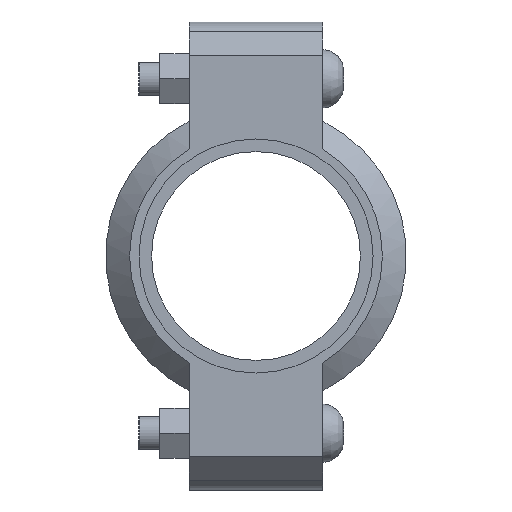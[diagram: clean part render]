
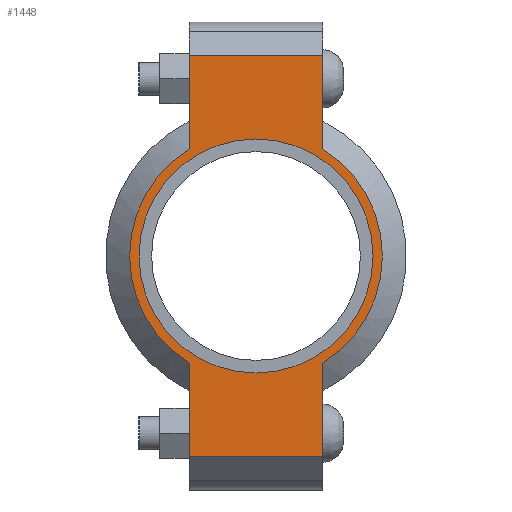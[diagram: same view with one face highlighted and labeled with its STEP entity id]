
A CAD part, left-side view. The second image highlights one B-rep face of the part: STEP entity #1448.
In plain terms, the highlighted planar face has unit normal (-1, 0, 0) as drawn and (0, 0, 1) by its records, which use the part's own axes.
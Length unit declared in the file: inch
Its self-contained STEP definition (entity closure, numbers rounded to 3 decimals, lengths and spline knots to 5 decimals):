
#128=LINE('',#2493,#219);
#136=LINE('',#2529,#227);
#143=LINE('',#2550,#234);
#152=LINE('',#2582,#243);
#153=LINE('',#2586,#244);
#154=LINE('',#2588,#245);
#219=VECTOR('',#2019,0.3937);
#227=VECTOR('',#2035,0.3937);
#234=VECTOR('',#2054,0.3937);
#243=VECTOR('',#2079,0.3937);
#244=VECTOR('',#2084,0.3937);
#245=VECTOR('',#2085,0.3937);
#297=FACE_BOUND('',#457,.T.);
#361=FACE_OUTER_BOUND('',#456,.T.);
#456=EDGE_LOOP('',(#1183,#1184,#1185,#1186,#1187,#1188,#1189,#1190));
#457=EDGE_LOOP('',(#1191));
#554=CIRCLE('',#1691,1.89);
#555=CIRCLE('',#1692,1.89);
#556=CIRCLE('',#1693,1.75);
#659=VERTEX_POINT('',#2490);
#660=VERTEX_POINT('',#2492);
#671=VERTEX_POINT('',#2524);
#672=VERTEX_POINT('',#2528);
#679=VERTEX_POINT('',#2547);
#680=VERTEX_POINT('',#2549);
#690=VERTEX_POINT('',#2585);
#691=VERTEX_POINT('',#2587);
#692=VERTEX_POINT('',#2590);
#823=EDGE_CURVE('',#660,#659,#128,.T.);
#837=EDGE_CURVE('',#672,#671,#136,.T.);
#847=EDGE_CURVE('',#680,#679,#143,.T.);
#862=EDGE_CURVE('',#672,#659,#152,.T.);
#863=EDGE_CURVE('',#671,#680,#554,.T.);
#864=EDGE_CURVE('',#690,#679,#153,.T.);
#865=EDGE_CURVE('',#690,#691,#154,.T.);
#866=EDGE_CURVE('',#691,#660,#555,.T.);
#867=EDGE_CURVE('',#692,#692,#556,.T.);
#1183=ORIENTED_EDGE('',*,*,#862,.F.);
#1184=ORIENTED_EDGE('',*,*,#837,.T.);
#1185=ORIENTED_EDGE('',*,*,#863,.T.);
#1186=ORIENTED_EDGE('',*,*,#847,.T.);
#1187=ORIENTED_EDGE('',*,*,#864,.F.);
#1188=ORIENTED_EDGE('',*,*,#865,.T.);
#1189=ORIENTED_EDGE('',*,*,#866,.T.);
#1190=ORIENTED_EDGE('',*,*,#823,.T.);
#1191=ORIENTED_EDGE('',*,*,#867,.T.);
#1302=PLANE('',#1690);
#1448=ADVANCED_FACE('',(#361,#297),#1302,.T.);
#1690=AXIS2_PLACEMENT_3D('',#2583,#2080,#2081);
#1691=AXIS2_PLACEMENT_3D('',#2584,#2082,#2083);
#1692=AXIS2_PLACEMENT_3D('',#2589,#2086,#2087);
#1693=AXIS2_PLACEMENT_3D('',#2591,#2088,#2089);
#2019=DIRECTION('',(-1.,0.,0.));
#2035=DIRECTION('',(1.,0.,0.));
#2054=DIRECTION('',(1.,0.,0.));
#2079=DIRECTION('',(0.,1.,0.));
#2080=DIRECTION('center_axis',(0.,0.,1.));
#2081=DIRECTION('ref_axis',(1.,0.,0.));
#2082=DIRECTION('center_axis',(0.,0.,1.));
#2083=DIRECTION('ref_axis',(-1.,0.,0.));
#2084=DIRECTION('',(0.,-1.,0.));
#2085=DIRECTION('',(-1.,0.,0.));
#2086=DIRECTION('center_axis',(0.,0.,1.));
#2087=DIRECTION('ref_axis',(-1.,0.,0.));
#2088=DIRECTION('center_axis',(0.,0.,-1.));
#2089=DIRECTION('ref_axis',(-1.,0.,0.));
#2490=CARTESIAN_POINT('',(-3.,1.,0.94));
#2492=CARTESIAN_POINT('',(-1.60378,1.,0.94));
#2493=CARTESIAN_POINT('',(-3.5,1.,0.94));
#2524=CARTESIAN_POINT('',(-1.60378,-1.,0.94));
#2528=CARTESIAN_POINT('',(-3.,-1.,0.94));
#2529=CARTESIAN_POINT('',(3.5,-1.,0.94));
#2547=CARTESIAN_POINT('',(3.,-1.,0.94));
#2549=CARTESIAN_POINT('',(1.60378,-1.,0.94));
#2550=CARTESIAN_POINT('',(3.5,-1.,0.94));
#2582=CARTESIAN_POINT('',(-3.,0.5,0.94));
#2583=CARTESIAN_POINT('Origin',(0.,0.,
0.94));
#2584=CARTESIAN_POINT('Origin',(0.,0.,0.94));
#2585=CARTESIAN_POINT('',(3.,1.,0.94));
#2586=CARTESIAN_POINT('',(3.,-0.5,0.94));
#2587=CARTESIAN_POINT('',(1.60378,1.,0.94));
#2588=CARTESIAN_POINT('',(-3.5,1.,0.94));
#2589=CARTESIAN_POINT('Origin',(0.,0.,0.94));
#2590=CARTESIAN_POINT('',(1.75,0.,0.94));
#2591=CARTESIAN_POINT('Origin',(0.,0.,0.94));
